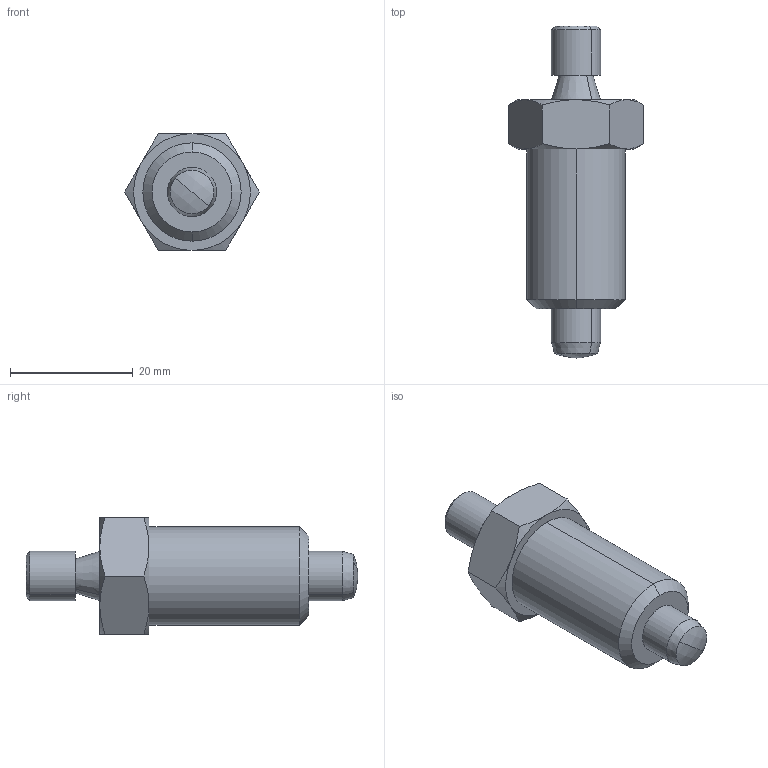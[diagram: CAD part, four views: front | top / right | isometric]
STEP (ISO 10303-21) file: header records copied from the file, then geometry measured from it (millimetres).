
FILE_DESCRIPTION (( 'STEP AP203' ), '1' );
FILE_NAME ('32700.W0028.step', '2011-03-28T11:59:41', ( 'Wixroyd' ), ( 'Wixroyd' ), 'SwSTEP 2.0', 'SolidWorks 2009', '' );
FILE_SCHEMA (( 'CONFIG_CONTROL_DESIGN' ));
Length unit declared in the file: millimetre
Products named in the file (4): Part1_3270.W028; Part2_3270.W028; Part4_3270.W028; 32700.W0028
Assembly tree (3 placements, depth 2):
  32700.W0028
    Part4_3270.W028
    Part1_3270.W028
    Part2_3270.W028
Bounding box: 21.94 x 54 x 19 mm (x, y, z)
Volume: 7227.8 mm3; surface area: 5118.6 mm2
Topology: 3 solids, 3 shells, 149 faces, 392 edges, 255 vertices
Faces by surface type: plane 107, cylinder 20, cone 20, sphere 2
Entity records: 5124 total; most frequent: CARTESIAN_POINT 954, DIRECTION 802, ORIENTED_EDGE 784, EDGE_CURVE 392, AXIS2_PLACEMENT_3D 279, VERTEX_POINT 255, LINE 244, VECTOR 244
